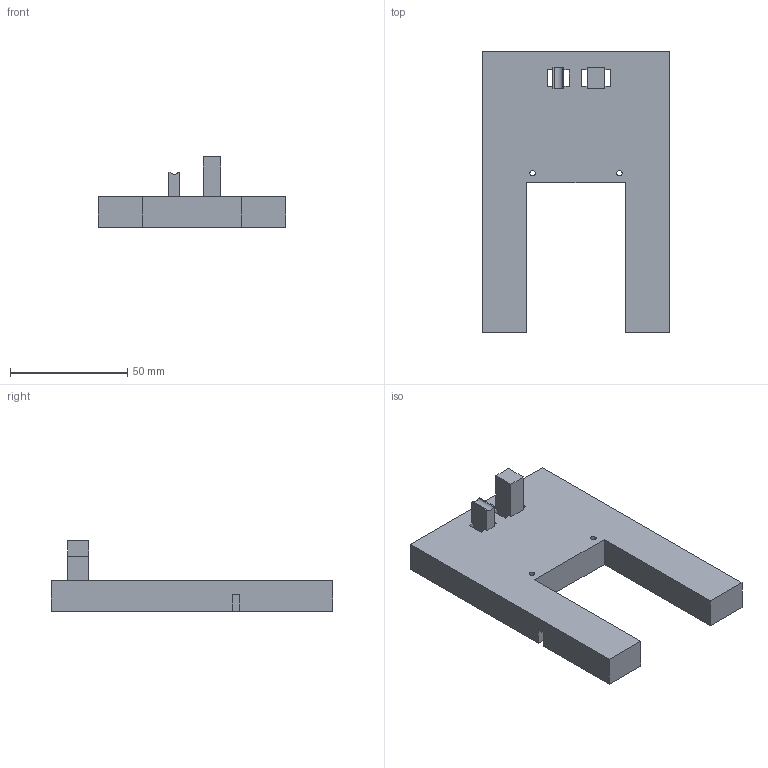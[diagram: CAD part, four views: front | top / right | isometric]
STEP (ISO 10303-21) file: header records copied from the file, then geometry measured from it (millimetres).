
FILE_DESCRIPTION(('FreeCAD Model'),'2;1');
FILE_NAME('Open CASCADE Shape Model','2026-11-02T01:51:25',('FreeCAD'),( 'FreeCAD'),'Open CASCADE STEP processor 7.8','FreeCAD','Unknown');
FILE_SCHEMA(('AUTOMOTIVE_DESIGN { 1 0 10303 214 1 1 1 1 }'));
Length unit declared in the file: millimetre
Products named in the file (1): Open CASCADE STEP translator 7.8 1
Bounding box: 80 x 120 x 30 mm (x, y, z)
Volume: 89956.7 mm3; surface area: 22840.4 mm2
Topology: 1 solids, 1 shells, 54 faces, 156 edges, 104 vertices
Faces by surface type: plane 51, cylinder 3
Full cylindrical faces by diameter (mm): 2.3 x2
Entity records: 1780 total; most frequent: CARTESIAN_POINT 315, ORIENTED_EDGE 312, DIRECTION 272, EDGE_CURVE 156, LINE 150, VECTOR 150, VERTEX_POINT 104, FACE_BOUND 66
